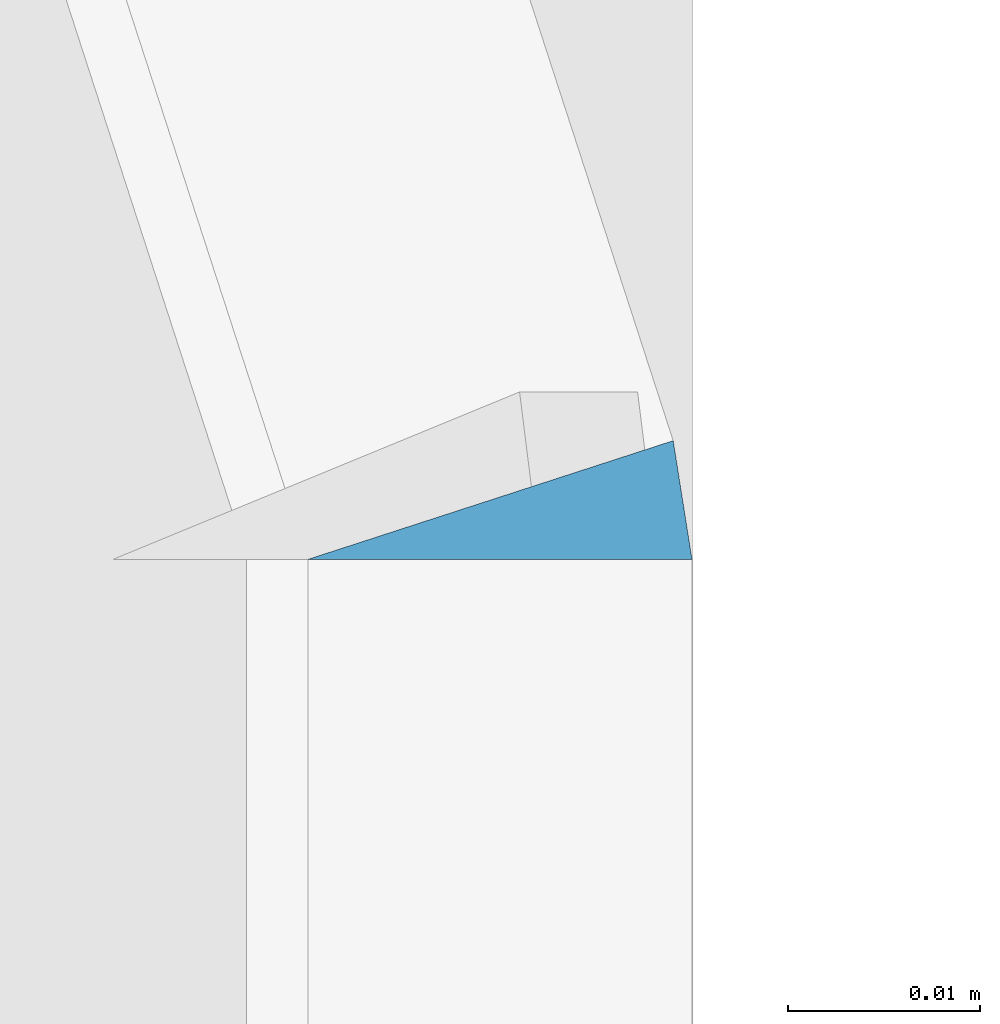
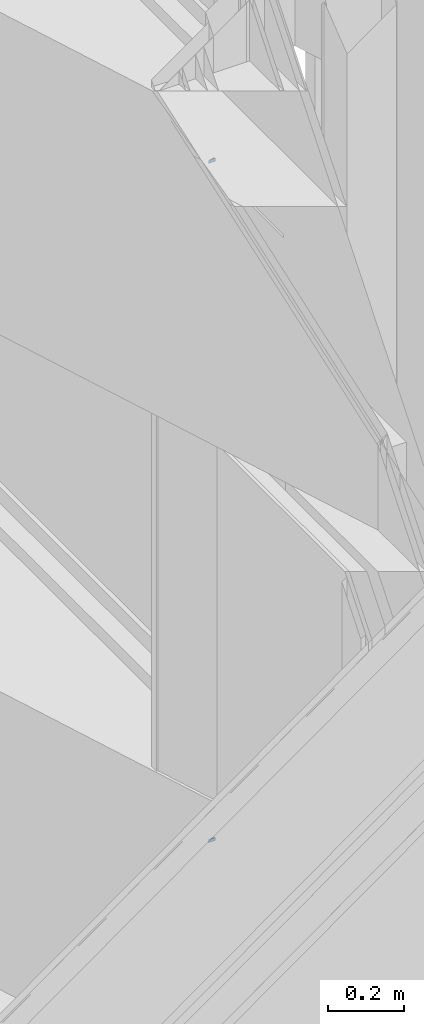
# One storey, part 366 of 583: 2 slabs.
"""IFC2X3 building model written with IfcOpenShell, lengths in metres."""

from ifc_helpers import new_model, entity, si_unit, converted_unit, derived_unit, money_unit, direction, frame, origin_with_axes, place, context, subcontext, project, spatial, faceted_brep, material, type_object, element, save


model = new_model("IFC2X3")

# Units and contexts
model_context = context("Model", 3, precision=1e-05, world=origin_with_axes(), true_north=direction((0.0, 1.0)))
body_context = subcontext(model_context, "Body", "Model", "MODEL_VIEW", scale=1.0)
ifc_project = project(units=[si_unit("LENGTHUNIT", "METRE"), si_unit("AREAUNIT", "SQUARE_METRE"), si_unit("VOLUMEUNIT", "CUBIC_METRE"), si_unit("ABSORBEDDOSEUNIT", "GRAY"), si_unit("AMOUNTOFSUBSTANCEUNIT", "MOLE"), si_unit("DOSEEQUIVALENTUNIT", "SIEVERT"), si_unit("ELECTRICCAPACITANCEUNIT", "FARAD"), si_unit("ELECTRICCHARGEUNIT", "COULOMB"), si_unit("ELECTRICCONDUCTANCEUNIT", "SIEMENS"), si_unit("ELECTRICCURRENTUNIT", "AMPERE"), si_unit("ELECTRICRESISTANCEUNIT", "OHM"), si_unit("ELECTRICVOLTAGEUNIT", "VOLT"), si_unit("ENERGYUNIT", "JOULE"), si_unit("FORCEUNIT", "NEWTON"), si_unit("FREQUENCYUNIT", "HERTZ"), si_unit("ILLUMINANCEUNIT", "LUX"), si_unit("INDUCTANCEUNIT", "HENRY"), si_unit("LUMINOUSFLUXUNIT", "LUMEN"), si_unit("LUMINOUSINTENSITYUNIT", "CANDELA"), si_unit("MAGNETICFLUXDENSITYUNIT", "TESLA"), si_unit("MAGNETICFLUXUNIT", "WEBER"), si_unit("MASSUNIT", "GRAM"), converted_unit("PLANEANGLEUNIT", "degree", entity("IfcReal", 0.0174532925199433), si_unit("PLANEANGLEUNIT", "RADIAN"), dimensions=[0, 0, 0, 0, 0, 0, 0]), si_unit("POWERUNIT", "WATT"), si_unit("PRESSUREUNIT", "PASCAL"), si_unit("RADIOACTIVITYUNIT", "BECQUEREL"), si_unit("SOLIDANGLEUNIT", "STERADIAN"), si_unit("THERMODYNAMICTEMPERATUREUNIT", "KELVIN"), si_unit("TIMEUNIT", "SECOND"), derived_unit("ACCELERATIONUNIT", [(si_unit("LENGTHUNIT", "METRE"), 1), (si_unit("TIMEUNIT", "SECOND"), -2)]), derived_unit("ANGULARVELOCITYUNIT", [(converted_unit("PLANEANGLEUNIT", "degree", entity("IfcReal", 0.0174532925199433), si_unit("PLANEANGLEUNIT", "RADIAN"), dimensions=[0, 0, 0, 0, 0, 0, 0]), 1), (si_unit("TIMEUNIT", "SECOND"), -1)]), derived_unit("CURVATUREUNIT", [(converted_unit("PLANEANGLEUNIT", "degree", entity("IfcReal", 0.0174532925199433), si_unit("PLANEANGLEUNIT", "RADIAN"), dimensions=[0, 0, 0, 0, 0, 0, 0]), 1), (si_unit("LENGTHUNIT", "METRE"), -1)]), derived_unit("DYNAMICVISCOSITYUNIT", [(si_unit("PRESSUREUNIT", "PASCAL"), 1), (si_unit("TIMEUNIT", "SECOND"), 1)]), derived_unit("HEATFLUXDENSITYUNIT", [(si_unit("POWERUNIT", "WATT"), 1), (si_unit("LENGTHUNIT", "METRE"), -2)]), derived_unit("HEATINGVALUEUNIT", [(si_unit("ENERGYUNIT", "JOULE"), 1), (si_unit("MASSUNIT", "GRAM"), -1)]), derived_unit("INTEGERCOUNTRATEUNIT", [(si_unit("TIMEUNIT", "SECOND"), -1)]), derived_unit("IONCONCENTRATIONUNIT", [(si_unit("MASSUNIT", "GRAM"), 1), (si_unit("VOLUMEUNIT", "CUBIC_METRE"), -1)]), derived_unit("ISOTHERMALMOISTURECAPACITYUNIT", [(si_unit("VOLUMEUNIT", "CUBIC_METRE"), 1), (si_unit("MASSUNIT", "GRAM"), -1)]), derived_unit("KINEMATICVISCOSITYUNIT", [(si_unit("AREAUNIT", "SQUARE_METRE"), 1), (si_unit("TIMEUNIT", "SECOND"), -1)]), derived_unit("LINEARFORCEUNIT", [(si_unit("FORCEUNIT", "NEWTON"), 1), (si_unit("LENGTHUNIT", "METRE"), -1)]), derived_unit("LINEARMOMENTUNIT", [(si_unit("FORCEUNIT", "NEWTON"), 1), (si_unit("LENGTHUNIT", "METRE"), -1)]), derived_unit("LINEARSTIFFNESSUNIT", [(si_unit("FORCEUNIT", "NEWTON"), 1), (si_unit("LENGTHUNIT", "METRE"), -1)]), derived_unit("LINEARVELOCITYUNIT", [(si_unit("LENGTHUNIT", "METRE"), 1), (si_unit("TIMEUNIT", "SECOND"), -1)]), derived_unit("LUMINOUSINTENSITYDISTRIBUTIONUNIT", [(si_unit("LUMINOUSINTENSITYUNIT", "CANDELA"), 1), (si_unit("LUMINOUSFLUXUNIT", "LUMEN"), -1)]), derived_unit("MASSDENSITYUNIT", [(si_unit("MASSUNIT", "GRAM"), 1), (si_unit("VOLUMEUNIT", "CUBIC_METRE"), -1)]), derived_unit("MASSFLOWRATEUNIT", [(si_unit("MASSUNIT", "GRAM"), 1), (si_unit("TIMEUNIT", "SECOND"), -1)]), derived_unit("MASSPERLENGTHUNIT", [(si_unit("MASSUNIT", "GRAM"), 1), (si_unit("LENGTHUNIT", "METRE"), -1)]), derived_unit("MODULUSOFELASTICITYUNIT", [(si_unit("FORCEUNIT", "NEWTON"), 1), (si_unit("AREAUNIT", "SQUARE_METRE"), -1)]), derived_unit("MODULUSOFLINEARSUBGRADEREACTIONUNIT", [(si_unit("FORCEUNIT", "NEWTON"), 1), (si_unit("LENGTHUNIT", "METRE"), -2)]), derived_unit("MODULUSOFROTATIONALSUBGRADEREACTIONUNIT", [(si_unit("FORCEUNIT", "NEWTON"), 1), (si_unit("LENGTHUNIT", "METRE"), 1)]), derived_unit("MODULUSOFSUBGRADEREACTIONUNIT", [(si_unit("FORCEUNIT", "NEWTON"), 1), (si_unit("VOLUMEUNIT", "CUBIC_METRE"), -1)]), derived_unit("MOISTUREDIFFUSIVITYUNIT", [(si_unit("VOLUMEUNIT", "CUBIC_METRE"), 1), (si_unit("TIMEUNIT", "SECOND"), -1)]), derived_unit("MOLECULARWEIGHTUNIT", [(si_unit("MASSUNIT", "GRAM"), 1), (si_unit("AMOUNTOFSUBSTANCEUNIT", "MOLE"), -1)]), derived_unit("PLANARFORCEUNIT", [(si_unit("FORCEUNIT", "NEWTON"), 1), (si_unit("LENGTHUNIT", "METRE"), -2)]), derived_unit("ROTATIONALFREQUENCYUNIT", [(si_unit("TIMEUNIT", "SECOND"), -1)]), derived_unit("ROTATIONALMASSUNIT", [(si_unit("MASSUNIT", "GRAM"), 1), (si_unit("LENGTHUNIT", "METRE"), 2)]), derived_unit("ROTATIONALSTIFFNESSUNIT", [(si_unit("FORCEUNIT", "NEWTON"), 1), (si_unit("LENGTHUNIT", "METRE"), 1), (converted_unit("PLANEANGLEUNIT", "degree", entity("IfcReal", 0.0174532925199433), si_unit("PLANEANGLEUNIT", "RADIAN"), dimensions=[0, 0, 0, 0, 0, 0, 0]), -1)]), derived_unit("SECTIONAREAINTEGRALUNIT", [(si_unit("LENGTHUNIT", "METRE"), 5)]), derived_unit("SECTIONMODULUSUNIT", [(si_unit("LENGTHUNIT", "METRE"), 3)]), derived_unit("SHEARMODULUSUNIT", [(si_unit("FORCEUNIT", "NEWTON"), 1), (si_unit("AREAUNIT", "SQUARE_METRE"), -1)]), derived_unit("SOUNDPOWERUNIT", [(si_unit("ENERGYUNIT", "JOULE"), 1), (si_unit("TIMEUNIT", "SECOND"), -1)]), derived_unit("SPECIFICHEATCAPACITYUNIT", [(si_unit("FORCEUNIT", "NEWTON"), 1), (si_unit("MASSUNIT", "GRAM"), -1), (si_unit("THERMODYNAMICTEMPERATUREUNIT", "KELVIN"), -1)]), derived_unit("TEMPERATUREGRADIENTUNIT", [(si_unit("THERMODYNAMICTEMPERATUREUNIT", "KELVIN"), 1), (si_unit("LENGTHUNIT", "METRE"), -1)]), derived_unit("THERMALADMITTANCEUNIT", [(si_unit("POWERUNIT", "WATT"), 1), (si_unit("AREAUNIT", "SQUARE_METRE"), -1), (si_unit("THERMODYNAMICTEMPERATUREUNIT", "KELVIN"), -1)]), derived_unit("THERMALCONDUCTANCEUNIT", [(si_unit("POWERUNIT", "WATT"), 1), (si_unit("LENGTHUNIT", "METRE"), -1), (si_unit("THERMODYNAMICTEMPERATUREUNIT", "KELVIN"), -1)]), derived_unit("THERMALEXPANSIONCOEFFICIENTUNIT", [(si_unit("THERMODYNAMICTEMPERATUREUNIT", "KELVIN"), -1)]), derived_unit("THERMALRESISTANCEUNIT", [(si_unit("AREAUNIT", "SQUARE_METRE"), 1), (si_unit("POWERUNIT", "WATT"), -1)]), derived_unit("THERMALTRANSMITTANCEUNIT", [(si_unit("POWERUNIT", "WATT"), 1), (si_unit("AREAUNIT", "SQUARE_METRE"), -1), (si_unit("THERMODYNAMICTEMPERATUREUNIT", "KELVIN"), -1)]), derived_unit("TORQUEUNIT", [(si_unit("FORCEUNIT", "NEWTON"), 1), (si_unit("LENGTHUNIT", "METRE"), 1)]), derived_unit("VAPORPERMEABILITYUNIT", [(si_unit("MASSUNIT", "GRAM"), 1), (si_unit("TIMEUNIT", "SECOND"), -1)]), derived_unit("VOLUMETRICFLOWRATEUNIT", [(si_unit("VOLUMEUNIT", "CUBIC_METRE"), 1), (si_unit("TIMEUNIT", "SECOND"), -1)]), derived_unit("WARPINGCONSTANTUNIT", [(si_unit("LENGTHUNIT", "METRE"), 6)]), derived_unit("WARPINGMOMENTUNIT", [(si_unit("FORCEUNIT", "NEWTON"), 1), (si_unit("LENGTHUNIT", "METRE"), 2)]), money_unit("GBP")], contexts=[model_context])

# Site, building, storey
site_placement = place(None, origin_with_axes())
site = spatial("IfcSite", under=ifc_project, at=site_placement, Name="Site", CompositionType="ELEMENT")
building_placement = place(site_placement, origin_with_axes())
building = spatial("IfcBuilding", under=site, at=building_placement, Name="Building01", CompositionType="ELEMENT")
storey_placement = place(building_placement, frame((0.0, 0.0, 20.78), z_axis=(0.0, 0.0, 1.0), x_axis=(1.0, 0.0, 0.0)))
storey = spatial("IfcBuildingStorey", under=building, at=storey_placement, Name="RL", CompositionType="ELEMENT", Elevation=20.78)

# Slabs
ifc_material = material(Name="A_BSUK_Roofs")
slab_type = type_object("IfcSlabType", Name="A-FloorsSlabs A_BSUK_Slabs", PredefinedType="FLOOR")
for number, where, z_axis, x_axis, name in (
    (1, (14.399021, 16.280608, -2.904976), (0.0, 1.0, 0.0), (0.0, 0.0, -1.0), "A-FloorsSlabs A_BSUK_Slabs"),
    (2, (14.399021, 16.280608, -0.714976), (0.0, 1.0, 0.0), (0.0, 0.0, -1.0), "A-FloorsSlabs A_BSUK_Slabs"),
):
    element("IfcSlab", number, at=place(storey_placement, frame(where, z_axis=z_axis, x_axis=x_axis)), inside=storey, type_object=slab_type, material=ifc_material, Name=name, ObjectType="A-FloorsSlabs A_BSUK_Slabs", context=body_context, shape_type="Brep", body=[
        faceted_brep([(0.0, 0.0, 0.0), (-0.01, 0.0, 0.0), (-0.01, -0.000979, -0.00618), (0.0, -0.000979, -0.00618), (-0.01, 0.019021, -0.00618), (0.0, 0.019021, -0.00618)], [[[0, 1, 2, 3]], [[3, 2, 4, 5]], [[5, 4, 1, 0]], [[1, 4, 2]], [[3, 5, 0]]]),
    ])

save(model, "model.ifc")
